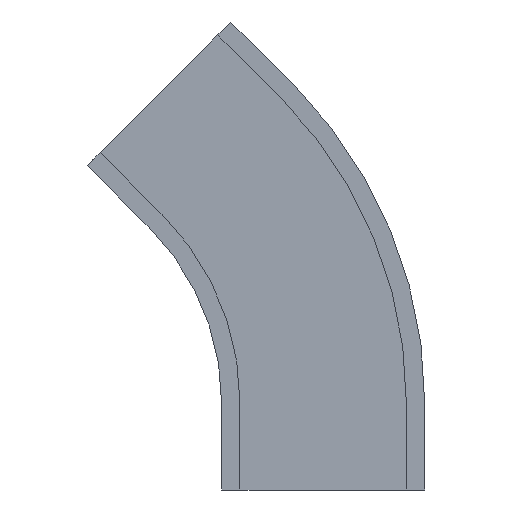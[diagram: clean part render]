
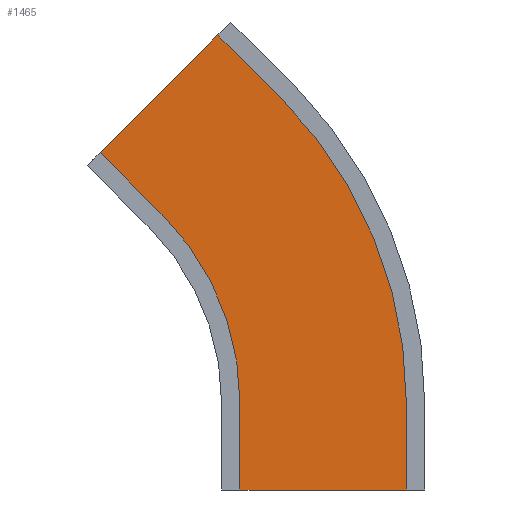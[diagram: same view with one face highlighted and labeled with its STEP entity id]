
A CAD part, front view. The second image highlights one B-rep face of the part: STEP entity #1465.
In plain terms, the highlighted planar face has unit normal (0, -1, 0).
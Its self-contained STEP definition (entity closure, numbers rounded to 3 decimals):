
#176 = CIRCLE ( 'NONE', #467, 304.75 ) ;
#178 = LINE ( 'NONE', #533, #185 ) ;
#181 = CIRCLE ( 'NONE', #468, 495.25 ) ;
#183 = LINE ( 'NONE', #531, #187 ) ;
#184 = LINE ( 'NONE', #532, #193 ) ;
#185 = VECTOR ( 'NONE', #524, 1000. ) ;
#186 = LINE ( 'NONE', #538, #189 ) ;
#187 = VECTOR ( 'NONE', #537, 1000. ) ;
#188 = LINE ( 'NONE', #540, #191 ) ;
#189 = VECTOR ( 'NONE', #539, 1000. ) ;
#191 = VECTOR ( 'NONE', #542, 1000. ) ;
#192 = LINE ( 'NONE', #544, #195 ) ;
#193 = VECTOR ( 'NONE', #543, 1000. ) ;
#195 = VECTOR ( 'NONE', #545, 1000. ) ;
#337 = EDGE_CURVE ( 'NONE', #1405, #1402, #176, .T. ) ;
#340 = EDGE_CURVE ( 'NONE', #1399, #1412, #181, .T. ) ;
#341 = EDGE_CURVE ( 'NONE', #1400, #1399, #178, .T. ) ;
#342 = EDGE_CURVE ( 'NONE', #1398, #1400, #183, .T. ) ;
#343 = EDGE_CURVE ( 'NONE', #1398, #1405, #186, .T. ) ;
#344 = EDGE_CURVE ( 'NONE', #1401, #1402, #188, .T. ) ;
#345 = EDGE_CURVE ( 'NONE', #1396, #1401, #184, .T. ) ;
#346 = EDGE_CURVE ( 'NONE', #1396, #1412, #192, .T. ) ;
#467 = AXIS2_PLACEMENT_3D ( 'NONE', #526, #527, #528 ) ;
#468 = AXIS2_PLACEMENT_3D ( 'NONE', #534, #535, #536 ) ;
#514 = AXIS2_PLACEMENT_3D ( 'NONE', #1118, #1122, #1123 ) ;
#524 = DIRECTION ( 'NONE',  ( 0.707, 0., -0.707 ) ) ;
#526 = CARTESIAN_POINT ( 'NONE',  ( 0., -68., 0. ) ) ;
#527 = DIRECTION ( 'NONE',  ( 0., 1., 0. ) ) ;
#528 = DIRECTION ( 'NONE',  ( -1., 0., 0. ) ) ;
#531 = CARTESIAN_POINT ( 'NONE',  ( -70.711, -68., 70.711 ) ) ;
#532 = CARTESIAN_POINT ( 'NONE',  ( 0., -68., -100. ) ) ;
#533 = CARTESIAN_POINT ( 'NONE',  ( 279.484, -68., 420.905 ) ) ;
#534 = CARTESIAN_POINT ( 'NONE',  ( 0., -68., 0. ) ) ;
#535 = DIRECTION ( 'NONE',  ( 0., 1., 0. ) ) ;
#536 = DIRECTION ( 'NONE',  ( -1., 0., 0. ) ) ;
#537 = DIRECTION ( 'NONE',  ( 0.707, 0., 0.707 ) ) ;
#538 = CARTESIAN_POINT ( 'NONE',  ( 144.78, -68., 286.201 ) ) ;
#539 = DIRECTION ( 'NONE',  ( 0.707, 0., -0.707 ) ) ;
#540 = CARTESIAN_POINT ( 'NONE',  ( 304.75, -68., -100. ) ) ;
#542 = DIRECTION ( 'NONE',  ( 0., 0., 1. ) ) ;
#543 = DIRECTION ( 'NONE',  ( -1., 0., 0. ) ) ;
#544 = CARTESIAN_POINT ( 'NONE',  ( 495.25, -68., -100. ) ) ;
#545 = DIRECTION ( 'NONE',  ( 0., 0., 1. ) ) ;
#876 = FACE_OUTER_BOUND ( 'NONE', #1570, .T. ) ;
#979 = CARTESIAN_POINT ( 'NONE',  ( 495.25, -68., -100. ) ) ;
#991 = CARTESIAN_POINT ( 'NONE',  ( 144.78, -68., 286.201 ) ) ;
#992 = CARTESIAN_POINT ( 'NONE',  ( 350.195, -68., 350.195 ) ) ;
#993 = CARTESIAN_POINT ( 'NONE',  ( 279.484, -68., 420.905 ) ) ;
#994 = CARTESIAN_POINT ( 'NONE',  ( 304.75, -68., -100. ) ) ;
#995 = CARTESIAN_POINT ( 'NONE',  ( 304.75, -68., 0. ) ) ;
#998 = CARTESIAN_POINT ( 'NONE',  ( 215.491, -68., 215.491 ) ) ;
#1005 = CARTESIAN_POINT ( 'NONE',  ( 495.25, -68., 0. ) ) ;
#1118 = CARTESIAN_POINT ( 'NONE',  ( 215.491, -68., 215.491 ) ) ;
#1120 = PLANE ( 'NONE',  #514 ) ;
#1122 = DIRECTION ( 'NONE',  ( 0., 1., 0. ) ) ;
#1123 = DIRECTION ( 'NONE',  ( -1., 0., 0. ) ) ;
#1396 = VERTEX_POINT ( 'NONE', #979 ) ;
#1398 = VERTEX_POINT ( 'NONE', #991 ) ;
#1399 = VERTEX_POINT ( 'NONE', #992 ) ;
#1400 = VERTEX_POINT ( 'NONE', #993 ) ;
#1401 = VERTEX_POINT ( 'NONE', #994 ) ;
#1402 = VERTEX_POINT ( 'NONE', #995 ) ;
#1405 = VERTEX_POINT ( 'NONE', #998 ) ;
#1412 = VERTEX_POINT ( 'NONE', #1005 ) ;
#1465 = ADVANCED_FACE ( 'NONE', ( #876 ), #1120, .F. ) ;
#1570 = EDGE_LOOP ( 'NONE', ( #1658, #1659, #1660, #1661, #1662, #1663, #1664, #1665 ) ) ;
#1658 = ORIENTED_EDGE ( 'NONE', *, *, #340, .F. ) ;
#1659 = ORIENTED_EDGE ( 'NONE', *, *, #341, .F. ) ;
#1660 = ORIENTED_EDGE ( 'NONE', *, *, #342, .F. ) ;
#1661 = ORIENTED_EDGE ( 'NONE', *, *, #343, .T. ) ;
#1662 = ORIENTED_EDGE ( 'NONE', *, *, #337, .T. ) ;
#1663 = ORIENTED_EDGE ( 'NONE', *, *, #344, .F. ) ;
#1664 = ORIENTED_EDGE ( 'NONE', *, *, #345, .F. ) ;
#1665 = ORIENTED_EDGE ( 'NONE', *, *, #346, .T. ) ;
